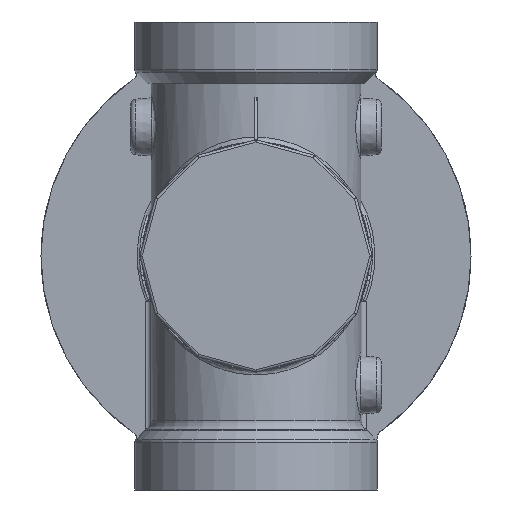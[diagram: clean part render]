
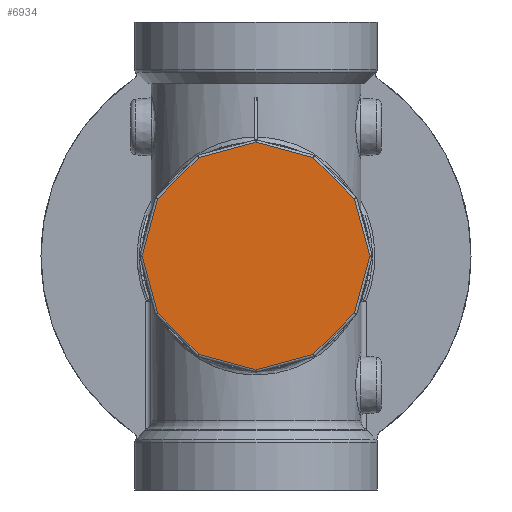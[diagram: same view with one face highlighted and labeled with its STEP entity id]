
A CAD part, front view. The second image highlights one B-rep face of the part: STEP entity #6934.
In plain terms, the highlighted planar face has unit normal (0, -1, 0).
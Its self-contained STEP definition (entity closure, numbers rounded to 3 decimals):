
#984=FACE_OUTER_BOUND('',#1458,.T.);
#1458=EDGE_LOOP('',(#6206,#6207,#6208,#6209,#6210,#6211,#6212,#6213,#6214,
#6215,#6216,#6217));
#1837=LINE('',#33091,#2282);
#1839=LINE('',#33099,#2284);
#1841=LINE('',#33109,#2286);
#1843=LINE('',#33119,#2288);
#1845=LINE('',#33129,#2290);
#1847=LINE('',#33139,#2292);
#1849=LINE('',#33149,#2294);
#1851=LINE('',#33159,#2296);
#1853=LINE('',#33169,#2298);
#1855=LINE('',#33179,#2300);
#1857=LINE('',#33189,#2302);
#1859=LINE('',#33198,#2304);
#2282=VECTOR('',#9268,10.);
#2284=VECTOR('',#9276,10.);
#2286=VECTOR('',#9288,10.);
#2288=VECTOR('',#9300,10.);
#2290=VECTOR('',#9312,10.);
#2292=VECTOR('',#9324,10.);
#2294=VECTOR('',#9336,10.);
#2296=VECTOR('',#9348,10.);
#2298=VECTOR('',#9360,10.);
#2300=VECTOR('',#9372,10.);
#2302=VECTOR('',#9384,10.);
#2304=VECTOR('',#9396,10.);
#3270=VERTEX_POINT('',#33084);
#3273=VERTEX_POINT('',#33089);
#3276=VERTEX_POINT('',#33097);
#3279=VERTEX_POINT('',#33107);
#3282=VERTEX_POINT('',#33117);
#3285=VERTEX_POINT('',#33127);
#3288=VERTEX_POINT('',#33137);
#3291=VERTEX_POINT('',#33147);
#3294=VERTEX_POINT('',#33157);
#3297=VERTEX_POINT('',#33167);
#3300=VERTEX_POINT('',#33177);
#3303=VERTEX_POINT('',#33187);
#4216=EDGE_CURVE('',#3273,#3270,#1837,.T.);
#4220=EDGE_CURVE('',#3276,#3273,#1839,.T.);
#4225=EDGE_CURVE('',#3279,#3276,#1841,.T.);
#4230=EDGE_CURVE('',#3282,#3279,#1843,.T.);
#4235=EDGE_CURVE('',#3285,#3282,#1845,.T.);
#4240=EDGE_CURVE('',#3288,#3285,#1847,.T.);
#4245=EDGE_CURVE('',#3291,#3288,#1849,.T.);
#4250=EDGE_CURVE('',#3294,#3291,#1851,.T.);
#4255=EDGE_CURVE('',#3297,#3294,#1853,.T.);
#4260=EDGE_CURVE('',#3300,#3297,#1855,.T.);
#4265=EDGE_CURVE('',#3303,#3300,#1857,.T.);
#4270=EDGE_CURVE('',#3270,#3303,#1859,.T.);
#6206=ORIENTED_EDGE('',*,*,#4216,.F.);
#6207=ORIENTED_EDGE('',*,*,#4220,.F.);
#6208=ORIENTED_EDGE('',*,*,#4225,.F.);
#6209=ORIENTED_EDGE('',*,*,#4230,.F.);
#6210=ORIENTED_EDGE('',*,*,#4235,.F.);
#6211=ORIENTED_EDGE('',*,*,#4240,.F.);
#6212=ORIENTED_EDGE('',*,*,#4245,.F.);
#6213=ORIENTED_EDGE('',*,*,#4250,.F.);
#6214=ORIENTED_EDGE('',*,*,#4255,.F.);
#6215=ORIENTED_EDGE('',*,*,#4260,.F.);
#6216=ORIENTED_EDGE('',*,*,#4265,.F.);
#6217=ORIENTED_EDGE('',*,*,#4270,.F.);
#6513=PLANE('',#7683);
#6934=ADVANCED_FACE('',(#984),#6513,.F.);
#7683=AXIS2_PLACEMENT_3D('',#33253,#9460,#9461);
#9268=DIRECTION('',(-0.707,0.,-0.707));
#9276=DIRECTION('',(-0.259,0.,-0.966));
#9288=DIRECTION('',(0.259,0.,-0.966));
#9300=DIRECTION('',(0.707,0.,-0.707));
#9312=DIRECTION('',(0.966,0.,-0.259));
#9324=DIRECTION('',(0.966,0.,0.259));
#9336=DIRECTION('',(0.707,0.,0.707));
#9348=DIRECTION('',(0.259,0.,0.966));
#9360=DIRECTION('',(-0.259,0.,0.966));
#9372=DIRECTION('',(-0.707,0.,0.707));
#9384=DIRECTION('',(-0.966,0.,0.259));
#9396=DIRECTION('',(-0.966,0.,-0.259));
#9460=DIRECTION('center_axis',(0.,1.,0.));
#9461=DIRECTION('ref_axis',(0.,0.,1.));
#33084=CARTESIAN_POINT('',(22.482,-79.,-106.941));
#33089=CARTESIAN_POINT('',(38.941,-79.,-90.482));
#33091=CARTESIAN_POINT('',(26.502,-79.,-102.921));
#33097=CARTESIAN_POINT('',(44.965,-79.,-68.));
#33099=CARTESIAN_POINT('',(40.412,-79.,-84.991));
#33107=CARTESIAN_POINT('',(38.941,-79.,-45.518));
#33109=CARTESIAN_POINT('',(43.493,-79.,-62.509));
#33117=CARTESIAN_POINT('',(22.482,-79.,-29.059));
#33119=CARTESIAN_POINT('',(34.921,-79.,-41.498));
#33127=CARTESIAN_POINT('',(0.,-79.,-23.035));
#33129=CARTESIAN_POINT('',(16.991,-79.,-27.588));
#33137=CARTESIAN_POINT('',(-22.482,-79.,-29.059));
#33139=CARTESIAN_POINT('',(-5.491,-79.,-24.507));
#33147=CARTESIAN_POINT('',(-38.941,-79.,-45.518));
#33149=CARTESIAN_POINT('',(-26.502,-79.,-33.079));
#33157=CARTESIAN_POINT('',(-44.965,-79.,-68.));
#33159=CARTESIAN_POINT('',(-40.412,-79.,-51.009));
#33167=CARTESIAN_POINT('',(-38.941,-79.,-90.482));
#33169=CARTESIAN_POINT('',(-43.493,-79.,-73.491));
#33177=CARTESIAN_POINT('',(-22.482,-79.,-106.941));
#33179=CARTESIAN_POINT('',(-34.921,-79.,-94.502));
#33187=CARTESIAN_POINT('',(0.,-79.,-112.965));
#33189=CARTESIAN_POINT('',(-16.991,-79.,-108.412));
#33198=CARTESIAN_POINT('',(5.491,-79.,-111.493));
#33253=CARTESIAN_POINT('Origin',(0.,-79.,-68.));
